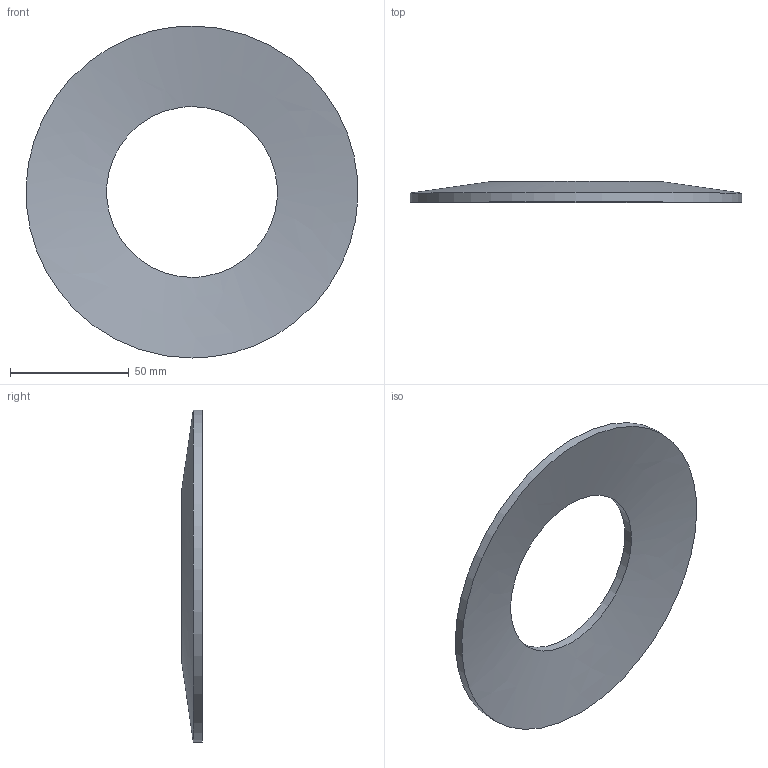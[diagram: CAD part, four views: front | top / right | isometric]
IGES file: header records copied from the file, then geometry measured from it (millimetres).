
Global section: file name: ST.1400.0720.0380; native system: Autodesk Inventor 2026; preprocessor: unknown; author: J. Iwanek; date: 20260918.103509; units: millimetre
Bounding box: 139.88 x 8.7 x 140 mm (x, y, z)
Volume: 43478.1 mm3; surface area: 25440.7 mm2
Topology: 1 solids, 1 shells, 4 faces, 12 edges, 8 vertices
Faces by surface type: bspline 4
